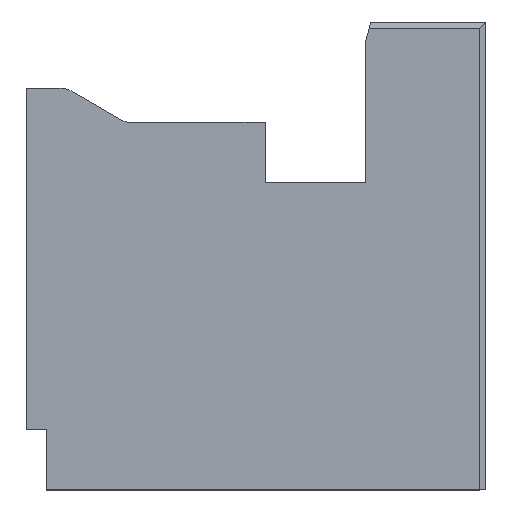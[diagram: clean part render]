
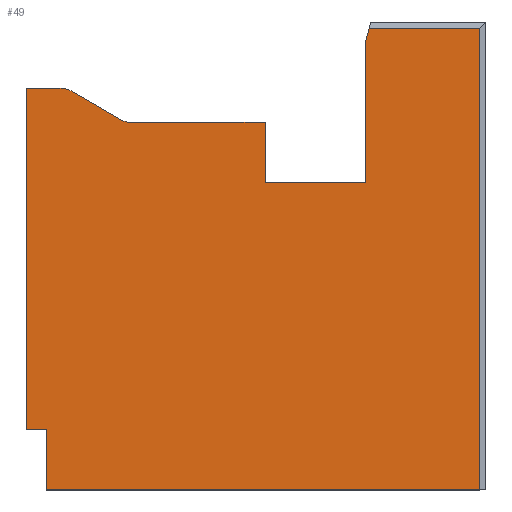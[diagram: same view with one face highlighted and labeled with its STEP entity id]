
A CAD part, top view. The second image highlights one B-rep face of the part: STEP entity #49.
In plain terms, the highlighted planar face has unit normal (0, 0, 1).
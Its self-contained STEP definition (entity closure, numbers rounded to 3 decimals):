
#2 = VERTEX_POINT ( 'NONE', #168 ) ;
#13 = VECTOR ( 'NONE', #654, 1000. ) ;
#22 = CARTESIAN_POINT ( 'NONE',  ( 4.712, 18.434, 13.6 ) ) ;
#24 = VERTEX_POINT ( 'NONE', #234 ) ;
#26 = EDGE_CURVE ( 'NONE', #2, #334, #486, .T. ) ;
#27 = VECTOR ( 'NONE', #474, 1000. ) ;
#35 = CARTESIAN_POINT ( 'NONE',  ( 11.9, 15.3, 13.6 ) ) ;
#46 = CARTESIAN_POINT ( 'NONE',  ( 11.9, 15.3, 13.6 ) ) ;
#47 = LINE ( 'NONE', #612, #115 ) ;
#48 = DIRECTION ( 'NONE',  ( -1., 0., 0. ) ) ;
#49 = ADVANCED_FACE ( 'NONE', ( #368 ), #621, .F. ) ;
#63 = VECTOR ( 'NONE', #48, 1000. ) ;
#71 = EDGE_CURVE ( 'NONE', #204, #606, #734, .T. ) ;
#72 = CARTESIAN_POINT ( 'NONE',  ( 0., 0., 13.6 ) ) ;
#78 = CARTESIAN_POINT ( 'NONE',  ( 22.6, 0., 13.6 ) ) ;
#94 = VERTEX_POINT ( 'NONE', #626 ) ;
#99 = CARTESIAN_POINT ( 'NONE',  ( 11.9, 18.3, 13.6 ) ) ;
#107 = CARTESIAN_POINT ( 'NONE',  ( 1., 19.3, 13.6 ) ) ;
#115 = VECTOR ( 'NONE', #292, 1000. ) ;
#137 = LINE ( 'NONE', #525, #27 ) ;
#141 = LINE ( 'NONE', #601, #158 ) ;
#144 = VECTOR ( 'NONE', #416, 1000. ) ;
#147 = DIRECTION ( 'NONE',  ( 1., 0., 0. ) ) ;
#158 = VECTOR ( 'NONE', #780, 1000. ) ;
#161 = AXIS2_PLACEMENT_3D ( 'NONE', #275, #519, #775 ) ;
#166 = DIRECTION ( 'NONE',  ( 0., 1., 0. ) ) ;
#168 = CARTESIAN_POINT ( 'NONE',  ( 16.9, 15.3, 13.6 ) ) ;
#170 = DIRECTION ( 'NONE',  ( -1., 0., 0. ) ) ;
#177 = VERTEX_POINT ( 'NONE', #276 ) ;
#204 = VERTEX_POINT ( 'NONE', #587 ) ;
#227 = VECTOR ( 'NONE', #550, 1000. ) ;
#228 = AXIS2_PLACEMENT_3D ( 'NONE', #805, #494, #170 ) ;
#230 = CARTESIAN_POINT ( 'NONE',  ( 0., 3., 13.6 ) ) ;
#234 = CARTESIAN_POINT ( 'NONE',  ( 1., 3., 13.6 ) ) ;
#247 = CARTESIAN_POINT ( 'NONE',  ( 11.9, 18.3, 13.6 ) ) ;
#251 = DIRECTION ( 'NONE',  ( -0.259, -0.966, 0. ) ) ;
#252 = EDGE_CURVE ( 'NONE', #305, #24, #405, .T. ) ;
#261 = ORIENTED_EDGE ( 'NONE', *, *, #679, .T. ) ;
#269 = VECTOR ( 'NONE', #166, 1000. ) ;
#275 = CARTESIAN_POINT ( 'NONE',  ( 1.732, 19., 13.6 ) ) ;
#276 = CARTESIAN_POINT ( 'NONE',  ( 2.232, 19.866, 13.6 ) ) ;
#292 = DIRECTION ( 'NONE',  ( 0., -1., 0. ) ) ;
#300 = LINE ( 'NONE', #367, #227 ) ;
#304 = CARTESIAN_POINT ( 'NONE',  ( 5.212, 18.3, 13.6 ) ) ;
#305 = VERTEX_POINT ( 'NONE', #230 ) ;
#310 = CARTESIAN_POINT ( 'NONE',  ( 5.212, 19.3, 13.6 ) ) ;
#330 = VECTOR ( 'NONE', #811, 1000. ) ;
#333 = VECTOR ( 'NONE', #251, 1000. ) ;
#334 = VERTEX_POINT ( 'NONE', #35 ) ;
#335 = CARTESIAN_POINT ( 'NONE',  ( 1., 0., 13.6 ) ) ;
#337 = EDGE_CURVE ( 'NONE', #606, #2, #47, .T. ) ;
#338 = EDGE_CURVE ( 'NONE', #664, #473, #300, .T. ) ;
#347 = EDGE_CURVE ( 'NONE', #473, #204, #431, .T. ) ;
#358 = CIRCLE ( 'NONE', #228, 1. ) ;
#367 = CARTESIAN_POINT ( 'NONE',  ( 22.6, 19.3, 13.6 ) ) ;
#368 = FACE_OUTER_BOUND ( 'NONE', #492, .T. ) ;
#372 = EDGE_CURVE ( 'NONE', #334, #403, #815, .T. ) ;
#380 = EDGE_CURVE ( 'NONE', #403, #648, #614, .T. ) ;
#388 = ORIENTED_EDGE ( 'NONE', *, *, #337, .T. ) ;
#401 = CARTESIAN_POINT ( 'NONE',  ( 5.212, 18.3, 13.6 ) ) ;
#403 = VERTEX_POINT ( 'NONE', #99 ) ;
#405 = LINE ( 'NONE', #599, #13 ) ;
#416 = DIRECTION ( 'NONE',  ( -1., 0., 0. ) ) ;
#426 = CARTESIAN_POINT ( 'NONE',  ( 1.732, 20., 13.6 ) ) ;
#431 = LINE ( 'NONE', #682, #657 ) ;
#460 = ORIENTED_EDGE ( 'NONE', *, *, #794, .T. ) ;
#462 = CARTESIAN_POINT ( 'NONE',  ( 16.9, 22.3, 13.6 ) ) ;
#473 = VERTEX_POINT ( 'NONE', #582 ) ;
#474 = DIRECTION ( 'NONE',  ( -0.866, 0.5, 0. ) ) ;
#486 = LINE ( 'NONE', #46, #63 ) ;
#490 = DIRECTION ( 'NONE',  ( -1., 0., 0. ) ) ;
#492 = EDGE_LOOP ( 'NONE', ( #577, #735, #528, #261, #531, #803, #778, #388, #613, #795, #539, #460, #820, #559, #542 ) ) ;
#494 = DIRECTION ( 'NONE',  ( 0., 0., -1. ) ) ;
#498 = DIRECTION ( 'NONE',  ( -1., 0., 0. ) ) ;
#519 = DIRECTION ( 'NONE',  ( 0., 0., 1. ) ) ;
#520 = AXIS2_PLACEMENT_3D ( 'NONE', #310, #563, #498 ) ;
#525 = CARTESIAN_POINT ( 'NONE',  ( 2.232, 19.866, 13.6 ) ) ;
#528 = ORIENTED_EDGE ( 'NONE', *, *, #779, .F. ) ;
#531 = ORIENTED_EDGE ( 'NONE', *, *, #338, .T. ) ;
#539 = ORIENTED_EDGE ( 'NONE', *, *, #380, .T. ) ;
#540 = CARTESIAN_POINT ( 'NONE',  ( 0., 20., 13.6 ) ) ;
#542 = ORIENTED_EDGE ( 'NONE', *, *, #762, .T. ) ;
#550 = DIRECTION ( 'NONE',  ( 0., 1., 0. ) ) ;
#553 = LINE ( 'NONE', #107, #269 ) ;
#559 = ORIENTED_EDGE ( 'NONE', *, *, #581, .T. ) ;
#563 = DIRECTION ( 'NONE',  ( 0., 0., -1. ) ) ;
#577 = ORIENTED_EDGE ( 'NONE', *, *, #661, .T. ) ;
#581 = EDGE_CURVE ( 'NONE', #177, #94, #822, .T. ) ;
#582 = CARTESIAN_POINT ( 'NONE',  ( 22.6, 23., 13.6 ) ) ;
#587 = CARTESIAN_POINT ( 'NONE',  ( 17.088, 23., 13.6 ) ) ;
#599 = CARTESIAN_POINT ( 'NONE',  ( 5.212, 3., 13.6 ) ) ;
#601 = CARTESIAN_POINT ( 'NONE',  ( 0., 20., 13.6 ) ) ;
#603 = VERTEX_POINT ( 'NONE', #335 ) ;
#606 = VERTEX_POINT ( 'NONE', #462 ) ;
#612 = CARTESIAN_POINT ( 'NONE',  ( 16.9, 15.3, 13.6 ) ) ;
#613 = ORIENTED_EDGE ( 'NONE', *, *, #26, .T. ) ;
#614 = LINE ( 'NONE', #304, #330 ) ;
#621 = PLANE ( 'NONE',  #520 ) ;
#626 = CARTESIAN_POINT ( 'NONE',  ( 1.732, 20., 13.6 ) ) ;
#632 = CARTESIAN_POINT ( 'NONE',  ( 16.9, 22.3, 13.6 ) ) ;
#648 = VERTEX_POINT ( 'NONE', #401 ) ;
#654 = DIRECTION ( 'NONE',  ( 1., 0., 0. ) ) ;
#656 = LINE ( 'NONE', #72, #757 ) ;
#657 = VECTOR ( 'NONE', #490, 1000. ) ;
#661 = EDGE_CURVE ( 'NONE', #751, #305, #141, .T. ) ;
#664 = VERTEX_POINT ( 'NONE', #78 ) ;
#679 = EDGE_CURVE ( 'NONE', #603, #664, #656, .T. ) ;
#682 = CARTESIAN_POINT ( 'NONE',  ( 5.212, 23., 13.6 ) ) ;
#690 = VERTEX_POINT ( 'NONE', #22 ) ;
#725 = EDGE_CURVE ( 'NONE', #690, #177, #137, .T. ) ;
#727 = LINE ( 'NONE', #426, #144 ) ;
#734 = LINE ( 'NONE', #632, #333 ) ;
#735 = ORIENTED_EDGE ( 'NONE', *, *, #252, .T. ) ;
#751 = VERTEX_POINT ( 'NONE', #540 ) ;
#757 = VECTOR ( 'NONE', #147, 1000. ) ;
#762 = EDGE_CURVE ( 'NONE', #94, #751, #727, .T. ) ;
#775 = DIRECTION ( 'NONE',  ( -1., 0., 0. ) ) ;
#778 = ORIENTED_EDGE ( 'NONE', *, *, #71, .T. ) ;
#779 = EDGE_CURVE ( 'NONE', #603, #24, #553, .T. ) ;
#780 = DIRECTION ( 'NONE',  ( 0., -1., 0. ) ) ;
#794 = EDGE_CURVE ( 'NONE', #648, #690, #358, .T. ) ;
#795 = ORIENTED_EDGE ( 'NONE', *, *, #372, .T. ) ;
#799 = DIRECTION ( 'NONE',  ( 0., 1., 0. ) ) ;
#803 = ORIENTED_EDGE ( 'NONE', *, *, #347, .T. ) ;
#805 = CARTESIAN_POINT ( 'NONE',  ( 5.212, 19.3, 13.6 ) ) ;
#810 = VECTOR ( 'NONE', #799, 1000. ) ;
#811 = DIRECTION ( 'NONE',  ( -1., 0., 0. ) ) ;
#815 = LINE ( 'NONE', #247, #810 ) ;
#820 = ORIENTED_EDGE ( 'NONE', *, *, #725, .T. ) ;
#822 = CIRCLE ( 'NONE', #161, 1. ) ;
